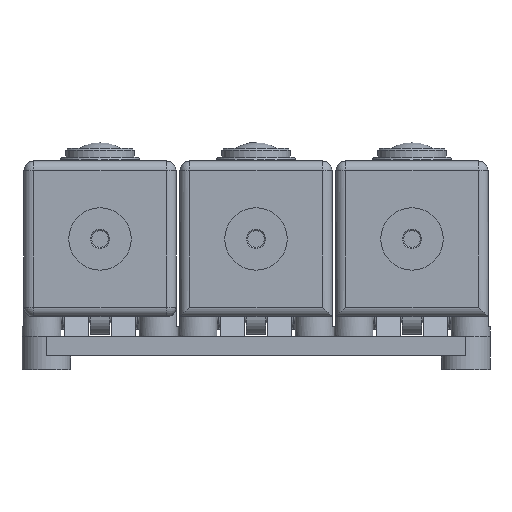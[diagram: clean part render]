
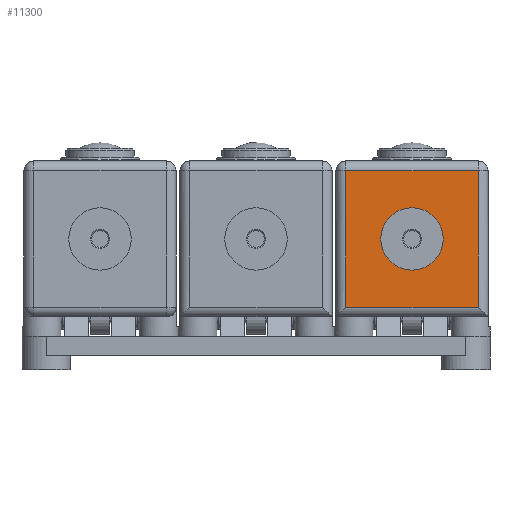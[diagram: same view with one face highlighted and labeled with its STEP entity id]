
A CAD part, front view. The second image highlights one B-rep face of the part: STEP entity #11300.
In plain terms, the highlighted planar face has unit normal (0, -1, 0).
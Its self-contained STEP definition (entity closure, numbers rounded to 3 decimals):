
#137=FACE_BOUND('',#1635,.T.);
#411=PLANE('',#12264);
#924=FACE_OUTER_BOUND('',#1634,.T.);
#1634=EDGE_LOOP('',(#8831,#8832,#8833,#8834));
#1635=EDGE_LOOP('',(#8835));
#2236=CIRCLE('',#12172,16.);
#3112=LINE('',#18303,#4115);
#3113=LINE('',#18306,#4116);
#3115=LINE('',#18310,#4118);
#3116=LINE('',#18313,#4119);
#4115=VECTOR('',#14704,10.);
#4116=VECTOR('',#14709,10.);
#4118=VECTOR('',#14713,10.);
#4119=VECTOR('',#14718,10.);
#5067=VERTEX_POINT('',#17972);
#5118=VERTEX_POINT('',#18230);
#5122=VERTEX_POINT('',#18256);
#5127=VERTEX_POINT('',#18302);
#5128=VERTEX_POINT('',#18309);
#6336=EDGE_CURVE('',#5067,#5067,#2236,.T.);
#6432=EDGE_CURVE('',#5127,#5122,#3112,.T.);
#6434=EDGE_CURVE('',#5122,#5118,#3113,.T.);
#6436=EDGE_CURVE('',#5118,#5128,#3115,.T.);
#6438=EDGE_CURVE('',#5128,#5127,#3116,.T.);
#8831=ORIENTED_EDGE('',*,*,#6432,.F.);
#8832=ORIENTED_EDGE('',*,*,#6438,.F.);
#8833=ORIENTED_EDGE('',*,*,#6436,.F.);
#8834=ORIENTED_EDGE('',*,*,#6434,.F.);
#8835=ORIENTED_EDGE('',*,*,#6336,.T.);
#11300=ADVANCED_FACE('',(#924,#137),#411,.F.);
#12172=AXIS2_PLACEMENT_3D('',#17974,#14494,#14495);
#12264=AXIS2_PLACEMENT_3D('',#18326,#14729,#14730);
#14494=DIRECTION('center_axis',(0.,1.,0.));
#14495=DIRECTION('ref_axis',(0.,0.,-1.));
#14704=DIRECTION('',(0.,0.,1.));
#14709=DIRECTION('',(1.,0.,0.));
#14713=DIRECTION('',(0.,0.,-1.));
#14718=DIRECTION('',(-1.,0.,0.));
#14729=DIRECTION('center_axis',(0.,1.,0.));
#14730=DIRECTION('ref_axis',(0.,0.,-1.));
#17972=CARTESIAN_POINT('',(52.625,-107.075,24.75));
#17974=CARTESIAN_POINT('Origin',(52.625,-107.075,8.75));
#18230=CARTESIAN_POINT('',(86.625,-107.075,43.75));
#18256=CARTESIAN_POINT('',(18.625,-107.075,43.75));
#18302=CARTESIAN_POINT('',(18.625,-107.075,-26.25));
#18303=CARTESIAN_POINT('',(18.625,-107.075,-13.75));
#18306=CARTESIAN_POINT('',(72.125,-107.075,43.75));
#18309=CARTESIAN_POINT('',(86.625,-107.075,-26.25));
#18310=CARTESIAN_POINT('',(86.625,-107.075,-13.75));
#18313=CARTESIAN_POINT('',(33.125,-107.075,-26.25));
#18326=CARTESIAN_POINT('Origin',(52.625,-107.075,8.75));
